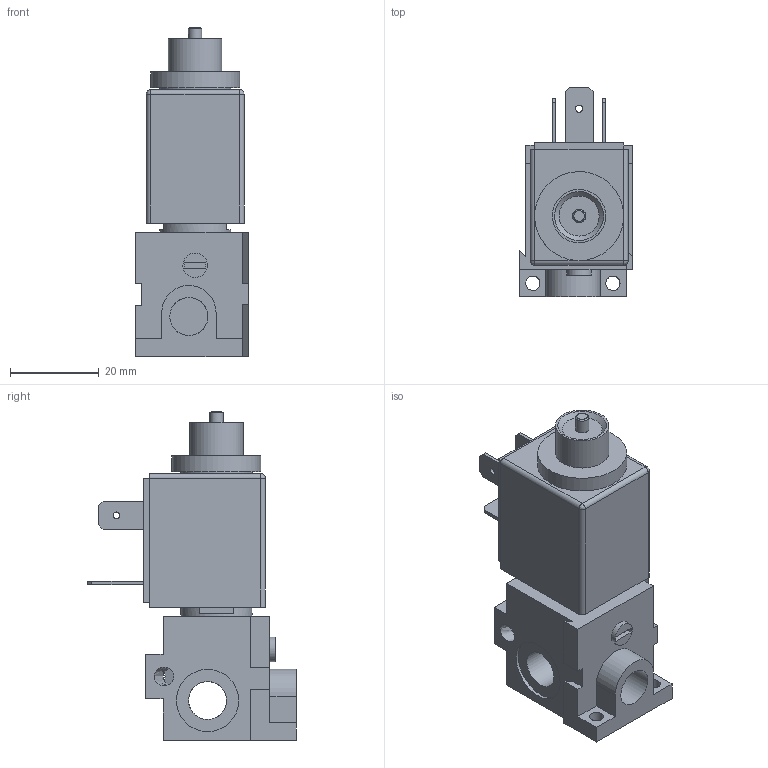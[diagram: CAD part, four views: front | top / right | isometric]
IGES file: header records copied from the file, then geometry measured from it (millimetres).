
Global section: file name: 305_M##-1; native system: Autodesk Inventor 2014; preprocessor: unknown; author: A. Manieri; date: 20161004.154138; units: millimetre
Bounding box: 25.4 x 47 x 74 mm (x, y, z)
Volume: 34081.4 mm3; surface area: 13674.1 mm2
Topology: 2 solids, 2 shells, 130 faces, 350 edges, 241 vertices
Faces by surface type: bspline 130
